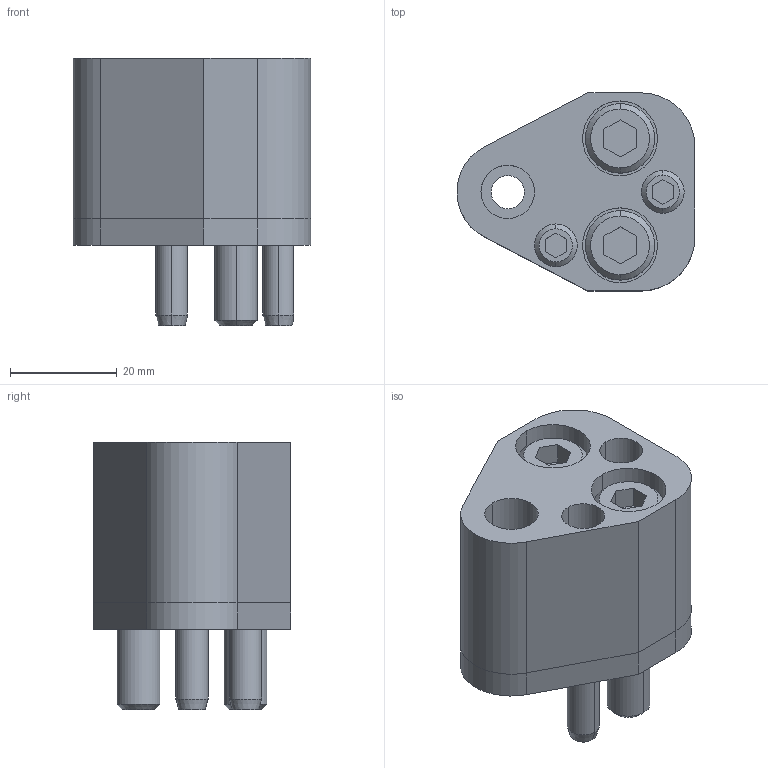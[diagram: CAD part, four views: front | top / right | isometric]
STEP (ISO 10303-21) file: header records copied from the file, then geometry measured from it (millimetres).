
FILE_DESCRIPTION(/* description */ (''),/* implementation_level */ '2;1');
FILE_NAME(/* name */ '3d_cp-ap10_02850_r00.stp',/* time_stamp */ '2011-01-10T14:16:30+09:00',/* author */ ('MISUMI'),/* organization */ (''),/* preprocessor_version */ 'ST-DEVELOPER v11',/* originating_system */ 'UGS - NX 5.0',/* authorisation */ '');
FILE_SCHEMA (('CONFIG_CONTROL_DESIGN'));
Length unit declared in the file: millimetre
Products named in the file (1): 3d_cp-ap10_02850_r00
Bounding box: 44.47 x 37 x 50 mm (x, y, z)
Volume: 40825.5 mm3; surface area: 19052.9 mm2
Topology: 8 solids, 8 shells, 152 faces, 340 edges, 218 vertices
Faces by surface type: plane 66, cylinder 60, cone 26
Entity records: 4397 total; most frequent: DIRECTION 788, CARTESIAN_POINT 762, ORIENTED_EDGE 680, EDGE_CURVE 340, AXIS2_PLACEMENT_3D 299, VERTEX_POINT 218, LINE 190, VECTOR 190
